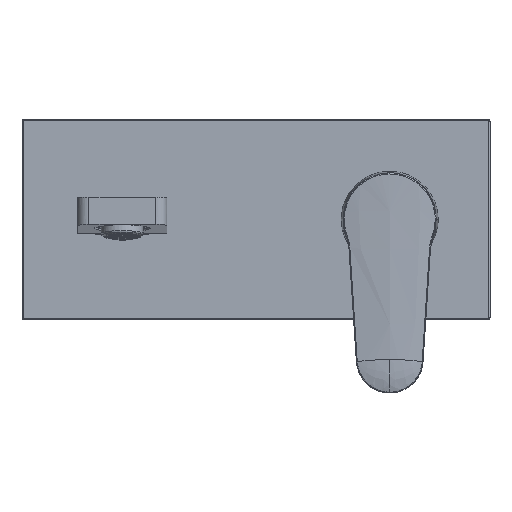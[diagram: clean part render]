
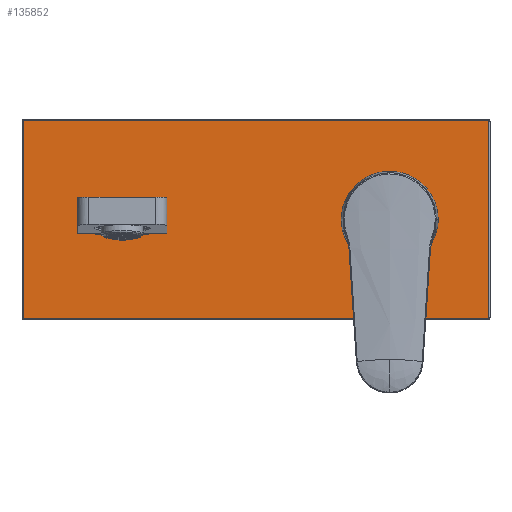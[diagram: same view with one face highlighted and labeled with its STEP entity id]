
A CAD part, top view. The second image highlights one B-rep face of the part: STEP entity #135852.
In plain terms, the highlighted planar face has unit normal (0, 0, 1).
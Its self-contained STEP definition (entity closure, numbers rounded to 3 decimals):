
#30503=CARTESIAN_POINT('',(104.,-44.,7.));
#30504=DIRECTION('',(0.,0.,1.));
#30505=DIRECTION('',(0.,-1.,0.));
#30506=AXIS2_PLACEMENT_3D('',#30503,#30504,#30505);
#30508=DIRECTION('',(1.,0.,0.));
#30509=VECTOR('',#30508,208.);
#30510=CARTESIAN_POINT('',(-104.,-44.5,7.));
#30511=LINE('',#30510,#30509);
#30512=CARTESIAN_POINT('',(-104.,-44.,7.));
#30513=DIRECTION('',(0.,0.,1.));
#30514=DIRECTION('',(-1.,0.,0.));
#30515=AXIS2_PLACEMENT_3D('',#30512,#30513,#30514);
#30517=DIRECTION('',(0.,-1.,0.));
#30518=VECTOR('',#30517,88.);
#30519=CARTESIAN_POINT('',(-104.5,44.,7.));
#30520=LINE('',#30519,#30518);
#30521=CARTESIAN_POINT('',(-104.,44.,7.));
#30522=DIRECTION('',(0.,0.,1.));
#30523=DIRECTION('',(0.,1.,0.));
#30524=AXIS2_PLACEMENT_3D('',#30521,#30522,#30523);
#30526=DIRECTION('',(-1.,0.,0.));
#30527=VECTOR('',#30526,208.);
#30528=CARTESIAN_POINT('',(104.,44.5,7.));
#30529=LINE('',#30528,#30527);
#30530=CARTESIAN_POINT('',(104.,44.,7.));
#30531=DIRECTION('',(0.,0.,1.));
#30532=DIRECTION('',(1.,0.,0.));
#30533=AXIS2_PLACEMENT_3D('',#30530,#30531,#30532);
#30535=DIRECTION('',(0.,1.,0.));
#30536=VECTOR('',#30535,88.);
#30537=CARTESIAN_POINT('',(104.5,-44.,7.));
#30538=LINE('',#30537,#30536);
#30539=CARTESIAN_POINT('',(60.,0.,7.));
#30540=DIRECTION('',(0.,0.,-1.));
#30541=DIRECTION('',(-1.,0.,0.));
#30542=AXIS2_PLACEMENT_3D('',#30539,#30540,#30541);
#30544=CARTESIAN_POINT('',(60.,0.,7.));
#30545=DIRECTION('',(0.,0.,-1.));
#30546=DIRECTION('',(1.,0.,0.));
#30547=AXIS2_PLACEMENT_3D('',#30544,#30545,#30546);
#30549=DIRECTION('',(1.,0.,0.));
#30550=VECTOR('',#30549,6.655);
#30551=CARTESIAN_POINT('',(-79.5,-6.5,7.));
#30552=LINE('',#30551,#30550);
#30553=CARTESIAN_POINT('',(-72.845,-26.5,7.));
#30554=DIRECTION('',(0.,0.,-1.));
#30555=DIRECTION('',(0.,1.,0.));
#30556=AXIS2_PLACEMENT_3D('',#30553,#30554,#30555);
#30558=CARTESIAN_POINT('',(-60.,-0.5,7.));
#30559=DIRECTION('',(0.,0.,1.));
#30560=DIRECTION('',(-0.443,-0.897,0.));
#30561=AXIS2_PLACEMENT_3D('',#30558,#30559,#30560);
#30563=CARTESIAN_POINT('',(-47.155,-26.5,7.));
#30564=DIRECTION('',(0.,0.,1.));
#30565=DIRECTION('',(0.,1.,0.));
#30566=AXIS2_PLACEMENT_3D('',#30563,#30564,#30565);
#30568=DIRECTION('',(1.,0.,0.));
#30569=VECTOR('',#30568,6.655);
#30570=CARTESIAN_POINT('',(-47.155,-6.5,7.));
#30571=LINE('',#30570,#30569);
#30572=CARTESIAN_POINT('',(-40.5,-5.5,7.));
#30573=DIRECTION('',(0.,0.,-1.));
#30574=DIRECTION('',(0.5,-0.866,0.));
#30575=AXIS2_PLACEMENT_3D('',#30572,#30573,#30574);
#30577=DIRECTION('',(0.,1.,0.));
#30578=VECTOR('',#30577,15.866);
#30579=CARTESIAN_POINT('',(-40.,-6.366,7.));
#30580=LINE('',#30579,#30578);
#30581=DIRECTION('',(1.,0.,0.));
#30582=VECTOR('',#30581,40.);
#30583=CARTESIAN_POINT('',(-80.,9.5,7.));
#30584=LINE('',#30583,#30582);
#30585=DIRECTION('',(0.,1.,0.));
#30586=VECTOR('',#30585,15.866);
#30587=CARTESIAN_POINT('',(-80.,-6.366,7.));
#30588=LINE('',#30587,#30586);
#30589=CARTESIAN_POINT('',(-79.5,-5.5,7.));
#30590=DIRECTION('',(0.,0.,-1.));
#30591=DIRECTION('',(0.,-1.,0.));
#30592=AXIS2_PLACEMENT_3D('',#30589,#30590,#30591);
#101267=CARTESIAN_POINT('',(104.,-44.5,7.));
#101268=CARTESIAN_POINT('',(104.5,-44.,7.));
#101269=VERTEX_POINT('',#101267);
#101270=VERTEX_POINT('',#101268);
#101275=CARTESIAN_POINT('',(104.5,44.,7.));
#101276=VERTEX_POINT('',#101275);
#101279=CARTESIAN_POINT('',(104.,44.5,7.));
#101280=VERTEX_POINT('',#101279);
#101283=CARTESIAN_POINT('',(-104.,44.5,7.));
#101284=VERTEX_POINT('',#101283);
#101287=CARTESIAN_POINT('',(-104.5,44.,7.));
#101288=VERTEX_POINT('',#101287);
#101291=CARTESIAN_POINT('',(-104.5,-44.,7.));
#101292=VERTEX_POINT('',#101291);
#101295=CARTESIAN_POINT('',(-104.,-44.5,7.));
#101296=VERTEX_POINT('',#101295);
#101343=CARTESIAN_POINT('',(39.05,0.,7.));
#101344=CARTESIAN_POINT('',(80.95,0.,7.));
#101345=VERTEX_POINT('',#101343);
#101346=VERTEX_POINT('',#101344);
#103780=CARTESIAN_POINT('',(-79.5,-6.5,7.));
#103781=CARTESIAN_POINT('',(-72.845,-6.5,7.));
#103782=VERTEX_POINT('',#103780);
#103783=VERTEX_POINT('',#103781);
#103784=CARTESIAN_POINT('',(-47.155,-6.5,7.));
#103785=CARTESIAN_POINT('',(-40.5,-6.5,7.));
#103786=VERTEX_POINT('',#103784);
#103787=VERTEX_POINT('',#103785);
#103788=CARTESIAN_POINT('',(-63.986,-8.569,7.));
#103789=CARTESIAN_POINT('',(-56.014,-8.569,7.));
#103790=VERTEX_POINT('',#103788);
#103791=VERTEX_POINT('',#103789);
#103792=CARTESIAN_POINT('',(-80.,-6.366,7.));
#103793=VERTEX_POINT('',#103792);
#103794=CARTESIAN_POINT('',(-40.,-6.366,7.));
#103795=VERTEX_POINT('',#103794);
#103796=CARTESIAN_POINT('',(-40.,9.5,7.));
#103797=VERTEX_POINT('',#103796);
#103798=CARTESIAN_POINT('',(-80.,9.5,7.));
#103799=VERTEX_POINT('',#103798);
#135802=CARTESIAN_POINT('',(0.,0.,7.));
#135803=DIRECTION('',(0.,0.,1.));
#135804=DIRECTION('',(1.,0.,0.));
#135805=AXIS2_PLACEMENT_3D('',#135802,#135803,#135804);
#135806=PLANE('',#135805);
#135808=ORIENTED_EDGE('',*,*,#135807,.F.);
#135809=ORIENTED_EDGE('',*,*,#135792,.F.);
#135811=ORIENTED_EDGE('',*,*,#135810,.F.);
#135813=ORIENTED_EDGE('',*,*,#135812,.F.);
#135815=ORIENTED_EDGE('',*,*,#135814,.F.);
#135817=ORIENTED_EDGE('',*,*,#135816,.F.);
#135819=ORIENTED_EDGE('',*,*,#135818,.F.);
#135821=ORIENTED_EDGE('',*,*,#135820,.F.);
#135822=EDGE_LOOP('',(#135808,#135809,#135811,#135813,#135815,#135817,#135819,
#135821));
#135823=FACE_OUTER_BOUND('',#135822,.F.);
#135825=ORIENTED_EDGE('',*,*,#135824,.F.);
#135827=ORIENTED_EDGE('',*,*,#135826,.F.);
#135828=EDGE_LOOP('',(#135825,#135827));
#135829=FACE_BOUND('',#135828,.F.);
#135831=ORIENTED_EDGE('',*,*,#135830,.T.);
#135833=ORIENTED_EDGE('',*,*,#135832,.T.);
#135835=ORIENTED_EDGE('',*,*,#135834,.T.);
#135837=ORIENTED_EDGE('',*,*,#135836,.F.);
#135839=ORIENTED_EDGE('',*,*,#135838,.T.);
#135841=ORIENTED_EDGE('',*,*,#135840,.F.);
#135843=ORIENTED_EDGE('',*,*,#135842,.T.);
#135845=ORIENTED_EDGE('',*,*,#135844,.F.);
#135847=ORIENTED_EDGE('',*,*,#135846,.F.);
#135849=ORIENTED_EDGE('',*,*,#135848,.F.);
#135850=EDGE_LOOP('',(#135831,#135833,#135835,#135837,#135839,#135841,#135843,
#135845,#135847,#135849));
#135851=FACE_BOUND('',#135850,.F.);
#135852=ADVANCED_FACE('',(#135823,#135829,#135851),#135806,.T.);
#30507=CIRCLE('',#30506,0.5);
#30516=CIRCLE('',#30515,0.5);
#30525=CIRCLE('',#30524,0.5);
#30534=CIRCLE('',#30533,0.5);
#30543=CIRCLE('',#30542,20.95);
#30548=CIRCLE('',#30547,20.95);
#30557=CIRCLE('',#30556,20.);
#30562=CIRCLE('',#30561,9.);
#30567=CIRCLE('',#30566,20.);
#30576=CIRCLE('',#30575,1.);
#30593=CIRCLE('',#30592,1.);
#135792=EDGE_CURVE('',#101296,#101269,#30511,.T.);
#135807=EDGE_CURVE('',#101269,#101270,#30507,.T.);
#135810=EDGE_CURVE('',#101292,#101296,#30516,.T.);
#135812=EDGE_CURVE('',#101288,#101292,#30520,.T.);
#135814=EDGE_CURVE('',#101284,#101288,#30525,.T.);
#135816=EDGE_CURVE('',#101280,#101284,#30529,.T.);
#135818=EDGE_CURVE('',#101276,#101280,#30534,.T.);
#135820=EDGE_CURVE('',#101270,#101276,#30538,.T.);
#135824=EDGE_CURVE('',#101345,#101346,#30543,.T.);
#135826=EDGE_CURVE('',#101346,#101345,#30548,.T.);
#135830=EDGE_CURVE('',#103782,#103783,#30552,.T.);
#135832=EDGE_CURVE('',#103783,#103790,#30557,.T.);
#135834=EDGE_CURVE('',#103790,#103791,#30562,.T.);
#135836=EDGE_CURVE('',#103786,#103791,#30567,.T.);
#135838=EDGE_CURVE('',#103786,#103787,#30571,.T.);
#135840=EDGE_CURVE('',#103795,#103787,#30576,.T.);
#135842=EDGE_CURVE('',#103795,#103797,#30580,.T.);
#135844=EDGE_CURVE('',#103799,#103797,#30584,.T.);
#135846=EDGE_CURVE('',#103793,#103799,#30588,.T.);
#135848=EDGE_CURVE('',#103782,#103793,#30593,.T.);
